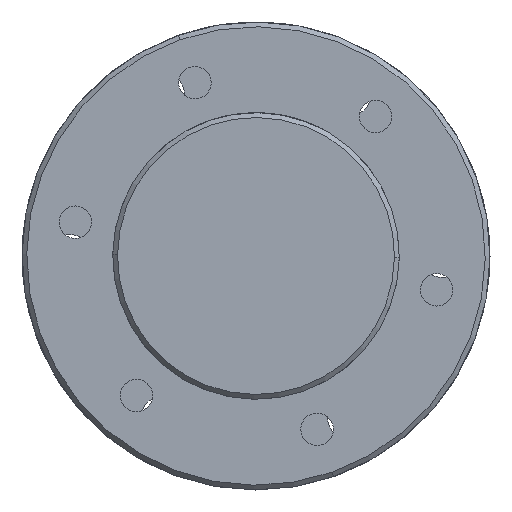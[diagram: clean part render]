
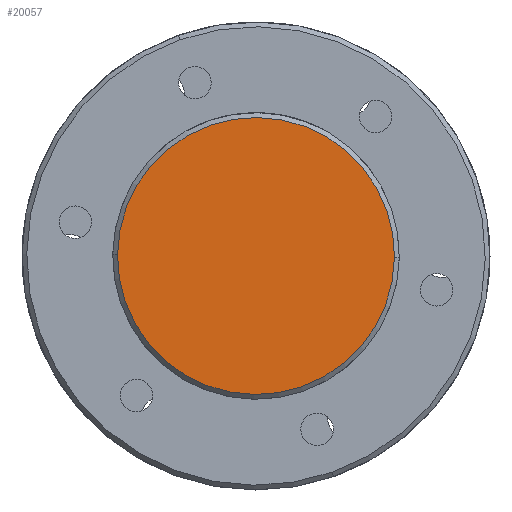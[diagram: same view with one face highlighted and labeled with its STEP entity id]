
A CAD part, left-side view. The second image highlights one B-rep face of the part: STEP entity #20057.
In plain terms, the highlighted planar face has unit normal (-1, 0, 0).
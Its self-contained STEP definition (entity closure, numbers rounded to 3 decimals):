
#586 = CARTESIAN_POINT ( 'NONE',  ( 0., 0., 0. ) ) ;
#867 = CARTESIAN_POINT ( 'NONE',  ( 0., 0., 29. ) ) ;
#1895 = EDGE_LOOP ( 'NONE', ( #2023, #19095 ) ) ;
#2023 = ORIENTED_EDGE ( 'NONE', *, *, #5056, .T. ) ;
#2868 = VERTEX_POINT ( 'NONE', #4205 ) ;
#2880 = CARTESIAN_POINT ( 'NONE',  ( 0., 0., 0. ) ) ;
#2974 = CIRCLE ( 'NONE', #11363, 29. ) ;
#3193 = VERTEX_POINT ( 'NONE', #867 ) ;
#4188 = DIRECTION ( 'NONE',  ( 0., 0., -1. ) ) ;
#4205 = CARTESIAN_POINT ( 'NONE',  ( 0., 0., -29. ) ) ;
#5056 = EDGE_CURVE ( 'NONE', #2868, #3193, #2974, .T. ) ;
#5737 = DIRECTION ( 'NONE',  ( 0., 0., -1. ) ) ;
#8095 = AXIS2_PLACEMENT_3D ( 'NONE', #586, #13862, #15263 ) ;
#11363 = AXIS2_PLACEMENT_3D ( 'NONE', #2880, #14261, #4188 ) ;
#13862 = DIRECTION ( 'NONE',  ( 1., 0., 0. ) ) ;
#14261 = DIRECTION ( 'NONE',  ( -1., 0., 0. ) ) ;
#14294 = CARTESIAN_POINT ( 'NONE',  ( 0., 0., 0. ) ) ;
#15263 = DIRECTION ( 'NONE',  ( 0., 0., -1. ) ) ;
#15577 = FACE_OUTER_BOUND ( 'NONE', #1895, .T. ) ;
#16799 = AXIS2_PLACEMENT_3D ( 'NONE', #14294, #19383, #5737 ) ;
#17098 = PLANE ( 'NONE',  #8095 ) ;
#19095 = ORIENTED_EDGE ( 'NONE', *, *, #19779, .T. ) ;
#19210 = CIRCLE ( 'NONE', #16799, 29. ) ;
#19383 = DIRECTION ( 'NONE',  ( -1., 0., 0. ) ) ;
#19779 = EDGE_CURVE ( 'NONE', #3193, #2868, #19210, .T. ) ;
#20057 = ADVANCED_FACE ( 'NONE', ( #15577 ), #17098, .F. ) ;
